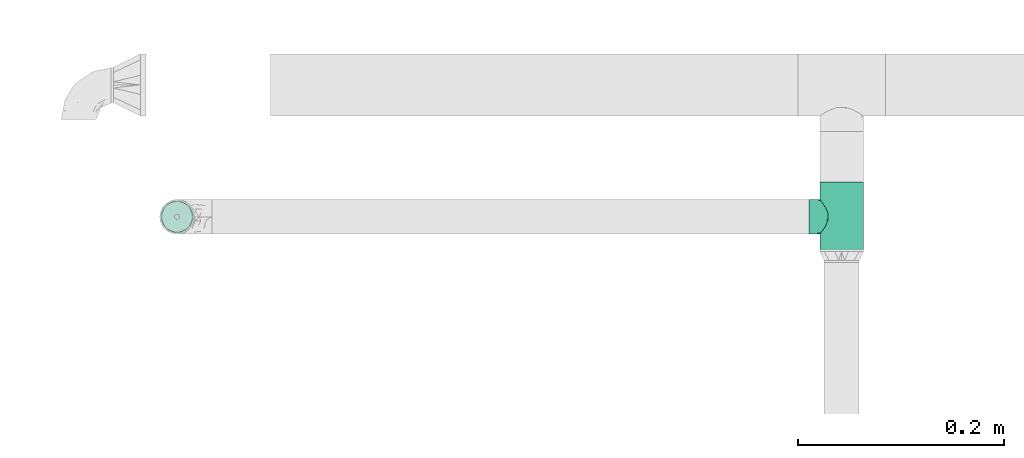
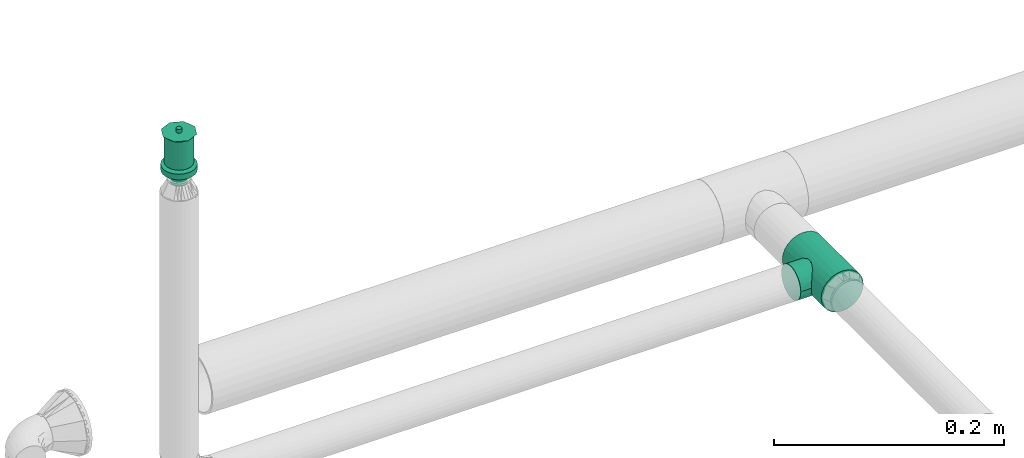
# One storey, part 69 of 157: 1 flow fitting, 1 flow terminal.
"""IFC2X3 building model written with IfcOpenShell, lengths in millimetres."""

from ifc_helpers import new_model, entity, si_unit, converted_unit, derived_unit, direction, frame, origin_with_axes, place, context, subcontext, project, spatial, open_shell, surface_model, source, transform, mapped, type_object, element, save


model = new_model("IFC2X3")

# Units and contexts
model_context = context("Model", 3, precision=0.01, world=frame((0.0, 4.29681676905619e-09, 0.0)), true_north=direction((4.01073788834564e-13, 1.0)))
plan_context = context("Plan", 3, precision=0.01, world=frame((0.0, 4.29681676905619e-09, 0.0)), true_north=direction((4.01073788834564e-13, 1.0)))
body_context = subcontext(model_context, "Body", "Model", "MODEL_VIEW")
ifc_project = project(units=[converted_unit("PLANEANGLEUNIT", "DEGREE", entity("IfcPositiveLengthMeasure", 0.0174532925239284), si_unit("PLANEANGLEUNIT", "RADIAN"), dimensions=[0, 0, 0, 0, 0, 0, 0]), si_unit("AREAUNIT", "SQUARE_METRE"), si_unit("LENGTHUNIT", "METRE", prefix="MILLI"), si_unit("MASSUNIT", "GRAM", prefix="KILO"), si_unit("POWERUNIT", "WATT"), si_unit("PRESSUREUNIT", "PASCAL"), si_unit("FORCEUNIT", "NEWTON", prefix="KILO"), si_unit("ELECTRICCURRENTUNIT", "AMPERE"), si_unit("THERMODYNAMICTEMPERATUREUNIT", "DEGREE_CELSIUS"), si_unit("TIMEUNIT", "SECOND"), si_unit("VOLUMEUNIT", "CUBIC_METRE"), derived_unit("LINEARVELOCITYUNIT", [(si_unit("LENGTHUNIT", "METRE"), 1), (si_unit("TIMEUNIT", "SECOND"), -1)]), derived_unit("VOLUMETRICFLOWRATEUNIT", [(si_unit("VOLUMEUNIT", "CUBIC_METRE"), 1), (si_unit("TIMEUNIT", "SECOND"), -1)]), derived_unit("THERMALTRANSMITTANCEUNIT", [(si_unit("POWERUNIT", "WATT"), 1), (si_unit("THERMODYNAMICTEMPERATUREUNIT", "KELVIN"), -1), (si_unit("AREAUNIT", "SQUARE_METRE"), -1)])], contexts=[model_context, plan_context])

# Site, building, storey
site_placement = place(None, frame((0.0, -4.29681676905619e-09, 0.0), z_axis=(0.0, 0.0, 1.0), x_axis=(1.0, 0.0, 0.0)))
site = spatial("IfcSite", under=ifc_project, at=site_placement, CompositionType="ELEMENT")
building_placement = place(site_placement, frame((0.0, 4.29681676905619e-09, 0.0), z_axis=(0.0, 0.0, 1.0), x_axis=(1.0, 0.0, 0.0)))
building = spatial("IfcBuilding", under=site, at=building_placement, Name="mc-building", CompositionType="ELEMENT")
storey_placement = place(building_placement, frame((0.0, 0.0, 204000.0), z_axis=(0.0, 0.0, 1.0), x_axis=(1.0, 0.0, 0.0)))
storey = spatial("IfcBuildingStorey", under=building, at=storey_placement, Name="Nivå D", CompositionType="ELEMENT", Elevation=204000.0)

# Flow fitting
pipe_fitting_type = type_object("IfcPipeFittingType", Name="magi_pipe_fe_tee_centric_90_NOR", PredefinedType="JUNCTION")
shared_shape_1 = source(origin_with_axes(), body_context, "Body", "SurfaceModel", [
    surface_model("IfcShellBasedSurfaceModel", [(-33.8, 0.0, -21.2), (-33.8, -5.48696, -20.47763), (-33.8, 5.48696, -20.47763), (-33.8, 10.6, -18.35974), (-33.8, 14.99066, -14.99066), (-33.8, -20.47763, 5.48696), (-33.8, 18.35974, -10.6), (-33.8, 10.6, 18.35974), (-33.8, -14.99066, -14.99066), (-33.8, -18.35974, -10.6), (-33.8, -10.6, -18.35974), (-33.8, -20.47763, -5.48696), (-33.8, -21.2, 0.0), (-33.8, 18.35974, 10.6), (-33.8, 20.47763, -5.48696), (-33.8, 20.47763, 5.48696), (-33.8, 21.2, 0.0), (-33.8, 14.99066, 14.99066), (-33.8, 5.48696, 20.47763), (-33.8, 0.0, 21.2), (-33.8, -18.35974, 10.6), (-33.8, -14.99066, 14.99066), (-33.8, -10.6, 18.35974), (-33.8, -5.48696, 20.47763), (33.8, 5.48696, -20.47763), (33.8, -5.48696, -20.47763), (33.8, 0.0, -21.2), (33.8, 14.99066, -14.99066), (33.8, 10.6, -18.35974), (33.8, 18.35974, -10.6), (33.8, 20.47763, -5.48696), (33.8, -21.2, 0.0), (33.8, -10.6, -18.35974), (33.8, -18.35974, -10.6), (33.8, -14.99066, -14.99066), (33.8, -20.47763, -5.48696), (33.8, -20.47763, 5.48696), (33.8, 21.2, 0.0), (33.8, 20.47763, 5.48696), (33.8, 18.35974, 10.6), (33.8, 10.6, 18.35974), (33.8, 14.99066, 14.99066), (33.8, 0.0, 21.2), (33.8, 5.48696, 20.47763), (33.8, -14.99066, 14.99066), (33.8, -18.35974, 10.6), (33.8, -10.6, 18.35974), (33.8, -5.48696, 20.47763), (16.9, -21.2, 0.0), (15.78624, -20.32327, 6.03364), (12.81343, -18.11115, 11.01935), (8.52479, -15.37862, 14.59239), (3.07939, -13.16482, 16.61708), (-16.9, -21.2, 0.0), (-15.78686, -20.32375, 6.032), (-8.52604, -15.37932, 14.59166), (-3.0848, -13.16609, 16.61608), (-12.81602, -18.11299, 11.01634), (3.07939, -13.16482, -16.61708), (12.81343, -18.11115, -11.01935), (8.52479, -15.37862, -14.59239), (15.78624, -20.32327, -6.03364), (-3.0848, -13.16609, -16.61608), (-8.52604, -15.37932, -14.59166), (-12.81602, -18.11299, -11.01634), (-15.78686, -20.32375, -6.032), (4.37404, -31.8, -16.32415), (-16.9, -31.8, 0.0), (0.0, -31.8, -16.9), (14.63583, -31.8, -8.45), (8.45, -31.8, -14.63583), (16.32415, -31.8, -4.37404), (11.9501, -31.8, -11.9501), (-11.9501, -31.8, -11.9501), (-8.45, -31.8, -14.63583), (-4.37404, -31.8, -16.32415), (-14.63583, -31.8, -8.45), (-16.32415, -31.8, -4.37404), (16.9, -31.8, 0.0), (8.45, -31.8, 14.63583), (16.32415, -31.8, 4.37404), (14.63583, -31.8, 8.45), (-8.45, -31.8, 14.63583), (11.9501, -31.8, 11.9501), (4.37404, -31.8, 16.32415), (-16.32415, -31.8, 4.37404), (-11.9501, -31.8, 11.9501), (-14.63583, -31.8, 8.45), (0.0, -31.8, 16.9), (-4.37404, -31.8, 16.32415), (-16.34343, -20.76188, 3.016), (16.34312, -20.76163, 3.01682), (-0.00271, -13.16546, 16.61658), (16.34312, -20.76163, -3.01682), (-0.00271, -13.16546, -16.61658), (-16.34343, -20.76188, -3.016)], [open_shell([[[0, 1, 2]], [[3, 2, 4]], [[5, 2, 1]], [[4, 2, 6]], [[6, 2, 7]], [[8, 9, 10]], [[1, 10, 9]], [[9, 11, 1]], [[12, 1, 11]], [[5, 1, 12]], [[13, 14, 6]], [[13, 15, 16]], [[6, 7, 13]], [[5, 7, 2]], [[17, 13, 7]], [[18, 7, 19]], [[20, 21, 5]], [[22, 5, 21]], [[23, 19, 22]], [[7, 5, 22]], [[22, 19, 7]], [[16, 14, 13]], [[24, 25, 26]], [[27, 24, 28]], [[29, 30, 24]], [[29, 24, 27]], [[31, 24, 30]], [[32, 33, 34]], [[33, 32, 25]], [[33, 31, 35]], [[31, 33, 25]], [[25, 24, 31]], [[30, 36, 31]], [[37, 38, 39]], [[37, 39, 40]], [[37, 40, 36]], [[40, 39, 41]], [[42, 40, 43]], [[36, 44, 45]], [[44, 36, 46]], [[46, 42, 47]], [[46, 36, 40]], [[40, 42, 46]], [[37, 36, 30]], [[31, 36, 48]], [[49, 48, 36]], [[36, 45, 49]], [[45, 44, 50]], [[51, 50, 44]], [[52, 51, 44]], [[44, 46, 52]], [[45, 50, 49]], [[53, 54, 5]], [[5, 12, 53]], [[54, 20, 5]], [[55, 56, 21]], [[20, 57, 21]], [[57, 20, 54]], [[21, 57, 55]], [[56, 22, 21]], [[52, 22, 56]], [[19, 47, 42]], [[23, 46, 47]], [[18, 42, 43]], [[39, 38, 15]], [[17, 40, 41]], [[13, 41, 39]], [[43, 40, 7]], [[16, 38, 37]], [[22, 46, 23]], [[23, 47, 19]], [[18, 19, 42]], [[43, 7, 18]], [[7, 40, 17]], [[13, 17, 41]], [[15, 13, 39]], [[38, 16, 15]], [[46, 22, 52]], [[6, 30, 29]], [[14, 37, 30]], [[4, 29, 27]], [[26, 25, 1]], [[2, 28, 24]], [[0, 24, 26]], [[27, 28, 3]], [[10, 25, 32]], [[16, 37, 14]], [[14, 30, 6]], [[4, 6, 29]], [[27, 3, 4]], [[3, 28, 2]], [[0, 2, 24]], [[1, 0, 26]], [[25, 10, 1]], [[32, 58, 10]], [[34, 59, 60]], [[59, 34, 33]], [[60, 58, 34]], [[34, 58, 32]], [[35, 31, 48]], [[35, 61, 33]], [[61, 35, 48]], [[33, 61, 59]], [[62, 63, 8]], [[8, 64, 9]], [[64, 8, 63]], [[62, 8, 10]], [[65, 53, 11]], [[65, 11, 9]], [[11, 53, 12]], [[65, 9, 64]], [[58, 62, 10]], [[66, 67, 68]], [[69, 66, 70]], [[69, 71, 66]], [[69, 70, 72]], [[67, 66, 71]], [[68, 73, 74]], [[74, 75, 68]], [[76, 67, 77]], [[73, 68, 76]], [[67, 76, 68]], [[71, 78, 67]], [[79, 78, 80]], [[79, 80, 81]], [[82, 67, 79]], [[79, 81, 83]], [[82, 79, 84]], [[85, 86, 87]], [[86, 85, 82]], [[82, 88, 89]], [[85, 67, 82]], [[84, 88, 82]], [[79, 67, 78]], [[85, 90, 67]], [[57, 87, 86]], [[85, 87, 54]], [[86, 82, 55]], [[85, 54, 90]], [[90, 53, 67]], [[54, 87, 57]], [[91, 49, 80]], [[55, 89, 56]], [[55, 57, 86]], [[88, 52, 92]], [[55, 82, 89]], [[52, 88, 84]], [[79, 51, 84]], [[50, 83, 81]], [[83, 51, 79]], [[81, 80, 49]], [[83, 50, 51]], [[51, 52, 84]], [[78, 91, 80]], [[49, 50, 81]], [[91, 78, 48]], [[88, 56, 89]], [[92, 56, 88]], [[71, 93, 78]], [[59, 69, 72]], [[71, 69, 61]], [[72, 70, 60]], [[93, 48, 78]], [[61, 69, 59]], [[60, 66, 58]], [[60, 59, 72]], [[68, 62, 94]], [[60, 70, 66]], [[95, 67, 53]], [[95, 65, 77]], [[71, 61, 93]], [[75, 62, 68]], [[65, 76, 77]], [[73, 76, 64]], [[68, 58, 66]], [[75, 63, 62]], [[63, 75, 74]], [[74, 73, 63]], [[63, 73, 64]], [[64, 76, 65]], [[67, 95, 77]], [[94, 58, 68]]])]),
])
flow_fitting_placement = place(storey_placement, frame((518685.97464, 413911.20018, 2690.0), z_axis=(0.0, 0.0, 1.0), x_axis=(0.0, -1.0, 0.0)))
element("IfcFlowFitting", 1, at=flow_fitting_placement, inside=storey, type_object=pipe_fitting_type, Name="magi_pipe_fe_tee_centric_90_NOR", context=body_context, shape_type="MappedRepresentation", body=[
    mapped(shared_shape_1, transform((0.0, 0.0, 0.0), scale=1.0)),
])

# Flow terminal
fire_suppression_terminal_type = type_object("IfcFireSuppressionTerminalType", Name="68DGR-STD-STÅENDE", PredefinedType="NOTDEFINED")
shared_shape_2 = source(origin_with_axes(), body_context, "Body", "SurfaceModel", [
    surface_model("IfcShellBasedSurfaceModel", [(3.36465, -12.55704, 51.0), (6.5, -11.25833, 51.0), (9.19239, -9.19239, 51.0), (12.55704, -3.36465, 51.0), (-11.25833, -6.5, 51.0), (11.25833, -6.5, 51.0), (-13.0, 0.0, 51.0), (0.0, -13.0, 51.0), (-6.5, -11.25833, 51.0), (-3.36465, -12.55704, 51.0), (-9.19239, -9.19239, 51.0), (-12.55704, -3.36465, 51.0), (13.0, 0.0, 51.0), (12.55704, 3.36465, 51.0), (11.25833, 6.5, 51.0), (9.19239, 9.19239, 51.0), (6.5, 11.25833, 51.0), (3.36465, 12.55704, 51.0), (0.0, 13.0, 51.0), (-3.36465, 12.55704, 51.0), (-12.55704, 3.36465, 51.0), (-9.19239, 9.19239, 51.0), (-11.25833, 6.5, 51.0), (-6.5, 11.25833, 51.0), (0.0, 13.0, 21.14766), (3.36465, 12.55704, 21.14766), (6.5, 11.25833, 21.14766), (-3.36465, 12.55704, 21.14766), (9.19239, 9.19239, 21.14766), (11.25833, 6.5, 21.14766), (12.55704, 3.36465, 21.14766), (-12.55704, 3.36465, 21.14766), (-11.25833, -6.5, 21.14766), (-9.19239, 9.19239, 21.14766), (-6.5, 11.25833, 21.14766), (-11.25833, 6.5, 21.14766), (-13.0, 0.0, 21.14766), (12.55704, -3.36465, 21.14766), (9.19239, -9.19239, 21.14766), (11.25833, -6.5, 21.14766), (6.5, -11.25833, 21.14766), (3.36465, -12.55704, 21.14766), (-6.5, -11.25833, 21.14766), (-9.19239, -9.19239, 21.14766), (-12.55704, -3.36465, 21.14766), (0.0, -13.0, 21.14766), (-3.36465, -12.55704, 21.14766), (13.0, 0.0, 21.14766), (7.24444, -1.94114, 0.1), (1.94114, -7.24444, 0.1), (3.75, -6.49519, 0.1), (5.3033, -5.3033, 0.1), (-5.3033, -5.3033, 0.1), (6.49519, -3.75, 0.1), (5.3033, 5.3033, 0.1), (0.0, -7.5, 0.1), (-3.75, -6.49519, 0.1), (-1.94114, -7.24444, 0.1), (-7.24444, -1.94114, 0.1), (-6.49519, -3.75, 0.1), (-7.24444, 1.94114, 0.1), (7.5, 0.0, 0.1), (6.49519, 3.75, 0.1), (-6.49519, 3.75, 0.1), (1.94114, 7.24444, 0.1), (0.0, 7.5, 0.1), (3.75, 6.49519, 0.1), (-7.5, 0.0, 0.1), (-5.3033, 5.3033, 0.1), (-1.94114, 7.24444, 0.1), (-3.75, 6.49519, 0.1), (7.24444, 1.94114, 0.1), (1.94114, 7.24444, -0.1), (-6.49519, 3.75, -0.1), (0.0, 7.5, -0.1), (5.3033, 5.3033, -0.1), (3.75, 6.49519, -0.1), (6.49519, 3.75, -0.1), (7.24444, 1.94114, -0.1), (-1.94114, 7.24444, -0.1), (-5.3033, 5.3033, -0.1), (-3.75, 6.49519, -0.1), (-7.24444, 1.94114, -0.1), (-7.24444, -1.94114, -0.1), (-7.5, 0.0, -0.1), (7.5, 0.0, -0.1), (7.24444, -1.94114, -0.1), (-5.3033, -5.3033, -0.1), (1.94114, -7.24444, -0.1), (6.49519, -3.75, -0.1), (5.3033, -5.3033, -0.1), (3.75, -6.49519, -0.1), (-6.49519, -3.75, -0.1), (-3.75, -6.49519, -0.1), (0.0, -7.5, -0.1), (-1.94114, -7.24444, -0.1), (0.0, -2.5, 51.0), (-2.5, 0.0, 51.0), (0.0, 2.5, 51.0), (2.5, 0.0, 51.0), (0.0, -16.0, 53.0), (11.31371, -11.31371, 53.0), (-11.31371, -11.31371, 53.0), (-16.0, 0.0, 53.0), (16.0, 0.0, 53.0), (11.31371, 11.31371, 53.0), (0.0, 16.0, 53.0), (-11.31371, 11.31371, 53.0), (1.25, -2.16506, 57.0), (0.0, -2.5, 57.0), (0.64705, -2.41481, 57.0), (2.41481, -0.64705, 57.0), (1.76777, -1.76777, 57.0), (-2.41481, -0.64705, 57.0), (-2.5, 0.0, 57.0), (2.16506, -1.25, 57.0), (-1.25, -2.16506, 57.0), (-0.64705, -2.41481, 57.0), (-1.76777, -1.76777, 57.0), (-2.16506, -1.25, 57.0), (2.5, 0.0, 57.0), (2.41481, 0.64705, 57.0), (2.16506, 1.25, 57.0), (1.76777, 1.76777, 57.0), (0.64705, 2.41481, 57.0), (1.25, 2.16506, 57.0), (-1.76777, 1.76777, 57.0), (0.0, 2.5, 57.0), (-2.16506, 1.25, 57.0), (-2.41481, 0.64705, 57.0), (-0.64705, 2.41481, 57.0), (-1.25, 2.16506, 57.0), (1.25, 2.16506, 51.0), (1.76777, 1.76777, 51.0), (1.15, 1.99186, 51.0), (0.59528, 2.22163, 51.0), (0.64705, 2.41481, 51.0), (0.0, 2.3, 51.0), (1.62635, 1.62635, 51.0), (2.41481, 0.64705, 51.0), (2.3, 0.0, 51.0), (2.22163, 0.59528, 51.0), (2.16506, 1.25, 51.0), (1.99186, 1.15, 51.0), (-0.59528, 2.22163, 51.0), (-0.64705, 2.41481, 51.0), (-1.15, 1.99186, 51.0), (-1.76777, 1.76777, 51.0), (-1.25, 2.16506, 51.0), (-1.62635, 1.62635, 51.0), (-1.99186, 1.15, 51.0), (-2.16506, 1.25, 51.0), (-2.22163, 0.59528, 51.0), (-2.41481, 0.64705, 51.0), (-2.3, 0.0, 51.0), (2.41481, -0.64705, 51.0), (2.22163, -0.59528, 51.0), (1.99186, -1.15, 51.0), (2.16506, -1.25, 51.0), (1.62635, -1.62635, 51.0), (1.76777, -1.76777, 51.0), (1.25, -2.16506, 51.0), (1.15, -1.99186, 51.0), (0.59528, -2.22163, 51.0), (0.64705, -2.41481, 51.0), (0.0, -2.3, 51.0), (-2.16506, -1.25, 51.0), (-1.99186, -1.15, 51.0), (-1.76777, -1.76777, 51.0), (-1.62635, -1.62635, 51.0), (-2.41481, -0.64705, 51.0), (-2.22163, -0.59528, 51.0), (-0.59528, -2.22163, 51.0), (-0.64705, -2.41481, 51.0), (-1.15, -1.99186, 51.0), (-1.25, -2.16506, 51.0), (1.62635, -1.62635, 56.8), (1.15, -1.99186, 56.8), (0.59528, -2.22163, 56.8), (0.0, -2.3, 56.8), (2.22163, 0.59528, 56.8), (1.99186, -1.15, 56.8), (2.22163, -0.59528, 56.8), (-0.59528, -2.22163, 56.8), (-1.15, -1.99186, 56.8), (-1.62635, -1.62635, 56.8), (-1.99186, -1.15, 56.8), (-2.22163, -0.59528, 56.8), (-1.99186, 1.15, 56.8), (2.3, 0.0, 56.8), (1.62635, 1.62635, 56.8), (1.99186, 1.15, 56.8), (1.15, 1.99186, 56.8), (0.0, 2.3, 56.8), (0.59528, 2.22163, 56.8), (-2.22163, 0.59528, 56.8), (-2.3, 0.0, 56.8), (-1.15, 1.99186, 56.8), (-0.59528, 2.22163, 56.8), (-1.62635, 1.62635, 56.8), (4.1411, -15.45481, 19.0), (8.0, -13.85641, 19.0), (11.31371, -11.31371, 19.0), (-8.0, -13.85641, 19.0), (15.45481, -4.1411, 19.0), (16.0, 0.0, 19.0), (13.85641, -8.0, 19.0), (0.0, -16.0, 19.0), (-4.1411, -15.45481, 19.0), (-13.85641, -8.0, 19.0), (-11.31371, -11.31371, 19.0), (-15.45481, -4.1411, 19.0), (15.45481, 4.1411, 19.0), (13.85641, 8.0, 19.0), (11.31371, 11.31371, 19.0), (-4.1411, 15.45481, 19.0), (8.0, 13.85641, 19.0), (4.1411, 15.45481, 19.0), (0.0, 16.0, 19.0), (-13.85641, 8.0, 19.0), (-15.45481, 4.1411, 19.0), (-16.0, 0.0, 19.0), (-11.31371, 11.31371, 19.0), (-8.0, 13.85641, 19.0), (0.0, 16.0, 13.0), (4.1411, 15.45481, 13.0), (8.0, 13.85641, 13.0), (-4.1411, 15.45481, 13.0), (11.31371, 11.31371, 13.0), (13.85641, 8.0, 13.0), (15.45481, 4.1411, 13.0), (-15.45481, -4.1411, 13.0), (-11.31371, 11.31371, 13.0), (-8.0, 13.85641, 13.0), (-13.85641, 8.0, 13.0), (-15.45481, 4.1411, 13.0), (-16.0, 0.0, 13.0), (4.1411, -15.45481, 13.0), (16.0, 0.0, 13.0), (15.45481, -4.1411, 13.0), (13.85641, -8.0, 13.0), (11.31371, -11.31371, 13.0), (8.0, -13.85641, 13.0), (-8.0, -13.85641, 13.0), (-13.85641, -8.0, 13.0), (-11.31371, -11.31371, 13.0), (0.0, -16.0, 13.0), (-4.1411, -15.45481, 13.0), (7.24444, -1.94114, 13.0), (1.94114, -7.24444, 13.0), (3.75, -6.49519, 13.0), (5.3033, -5.3033, 13.0), (-5.3033, -5.3033, 13.0), (6.49519, -3.75, 13.0), (5.3033, 5.3033, 13.0), (0.0, -7.5, 13.0), (-3.75, -6.49519, 13.0), (-1.94114, -7.24444, 13.0), (-7.24444, -1.94114, 13.0), (-6.49519, -3.75, 13.0), (-7.24444, 1.94114, 13.0), (7.5, 0.0, 13.0), (6.49519, 3.75, 13.0), (-6.49519, 3.75, 13.0), (1.94114, 7.24444, 13.0), (0.0, 7.5, 13.0), (3.75, 6.49519, 13.0), (-7.5, 0.0, 13.0), (-5.3033, 5.3033, 13.0), (-1.94114, 7.24444, 13.0), (-3.75, 6.49519, 13.0), (7.24444, 1.94114, 13.0), (3.75, 6.49519, 0.0), (5.3033, 5.3033, 0.0), (3.65, 6.32199, 0.0), (1.88938, 7.05126, 0.0), (0.0, 7.3, 0.0), (1.94114, 7.24444, 0.0), (0.0, 7.5, 0.0), (5.16188, 5.16188, 0.0), (7.24444, 1.94114, 0.0), (7.3, 0.0, 0.0), (7.05126, 1.88938, 0.0), (7.5, 0.0, 0.0), (6.49519, 3.75, 0.0), (6.32199, 3.65, 0.0), (-1.88938, 7.05126, 0.0), (-1.94114, 7.24444, 0.0), (-3.65, 6.32199, 0.0), (-5.3033, 5.3033, 0.0), (-3.75, 6.49519, 0.0), (-5.16188, 5.16188, 0.0), (-6.32199, 3.65, 0.0), (-6.49519, 3.75, 0.0), (-7.05126, 1.88938, 0.0), (-7.24444, 1.94114, 0.0), (-7.3, 0.0, 0.0), (-7.5, 0.0, 0.0), (7.24444, -1.94114, 0.0), (7.05126, -1.88938, 0.0), (6.32199, -3.65, 0.0), (6.49519, -3.75, 0.0), (5.16188, -5.16188, 0.0), (5.3033, -5.3033, 0.0), (3.75, -6.49519, 0.0), (3.65, -6.32199, 0.0), (1.88938, -7.05126, 0.0), (1.94114, -7.24444, 0.0), (0.0, -7.3, 0.0), (0.0, -7.5, 0.0), (-6.49519, -3.75, 0.0), (-6.32199, -3.65, 0.0), (-5.3033, -5.3033, 0.0), (-5.16188, -5.16188, 0.0), (-7.24444, -1.94114, 0.0), (-7.05126, -1.88938, 0.0), (-1.88938, -7.05126, 0.0), (-1.94114, -7.24444, 0.0), (-3.65, -6.32199, 0.0), (-3.75, -6.49519, 0.0), (1.88938, -7.05126, 12.8), (0.0, -7.3, 12.8), (3.65, -6.32199, 12.8), (5.16188, -5.16188, 12.8), (6.32199, -3.65, 12.8), (7.05126, 1.88938, 12.8), (7.05126, -1.88938, 12.8), (-5.16188, -5.16188, 12.8), (-1.88938, -7.05126, 12.8), (-3.65, -6.32199, 12.8), (-6.32199, -3.65, 12.8), (-7.05126, -1.88938, 12.8), (0.0, 7.3, 12.8), (7.3, 0.0, 12.8), (6.32199, 3.65, 12.8), (5.16188, 5.16188, 12.8), (3.65, 6.32199, 12.8), (1.88938, 7.05126, 12.8), (-6.32199, 3.65, 12.8), (-7.05126, 1.88938, 12.8), (-7.3, 0.0, 12.8), (-3.65, 6.32199, 12.8), (-1.88938, 7.05126, 12.8), (-5.16188, 5.16188, 12.8)], [open_shell([[[0, 1, 2]], [[0, 2, 3]], [[0, 3, 4]], [[3, 2, 5]], [[6, 4, 3]], [[7, 8, 9]], [[7, 0, 8]], [[8, 4, 10]], [[0, 4, 8]], [[4, 6, 11]], [[6, 3, 12]], [[13, 14, 15]], [[6, 13, 15]], [[16, 17, 18]], [[15, 16, 19]], [[18, 19, 16]], [[20, 21, 22]], [[20, 6, 15]], [[21, 19, 23]], [[19, 21, 20]], [[15, 19, 20]], [[13, 6, 12]], [[24, 25, 26]], [[27, 24, 26]], [[28, 29, 30]], [[26, 28, 31]], [[28, 32, 31]], [[27, 33, 34]], [[33, 27, 31]], [[33, 31, 35]], [[27, 26, 31]], [[31, 32, 36]], [[32, 28, 30]], [[32, 30, 37]], [[38, 37, 39]], [[38, 40, 41]], [[38, 41, 37]], [[32, 37, 41]], [[32, 42, 43]], [[44, 36, 32]], [[42, 45, 46]], [[42, 32, 41]], [[45, 42, 41]], [[30, 47, 37]], [[4, 32, 43]], [[8, 42, 46]], [[43, 42, 10]], [[9, 46, 45]], [[36, 11, 6]], [[11, 36, 44]], [[11, 44, 4]], [[44, 32, 4]], [[43, 10, 4]], [[8, 10, 42]], [[46, 9, 8]], [[45, 7, 9]], [[0, 41, 40]], [[38, 1, 40]], [[5, 39, 37]], [[38, 39, 2]], [[3, 37, 47]], [[41, 0, 7]], [[40, 1, 0]], [[38, 2, 1]], [[39, 5, 2]], [[3, 5, 37]], [[47, 12, 3]], [[41, 7, 45]], [[30, 13, 47]], [[29, 14, 30]], [[25, 24, 17]], [[15, 29, 28]], [[30, 14, 13]], [[13, 12, 47]], [[16, 26, 17]], [[16, 15, 28]], [[26, 25, 17]], [[15, 14, 29]], [[28, 26, 16]], [[24, 18, 17]], [[19, 27, 34]], [[33, 23, 34]], [[22, 35, 31]], [[33, 35, 21]], [[20, 31, 36]], [[27, 19, 18]], [[34, 23, 19]], [[33, 21, 23]], [[35, 22, 21]], [[20, 22, 31]], [[36, 6, 20]], [[27, 18, 24]], [[48, 49, 50]], [[48, 50, 51]], [[49, 48, 52]], [[48, 51, 53]], [[54, 52, 48]], [[55, 56, 57]], [[56, 55, 52]], [[52, 58, 59]], [[52, 55, 49]], [[52, 60, 58]], [[54, 48, 61]], [[62, 54, 61]], [[54, 63, 52]], [[64, 65, 54]], [[64, 54, 66]], [[63, 54, 65]], [[63, 60, 52]], [[67, 58, 60]], [[68, 69, 70]], [[69, 68, 63]], [[69, 63, 65]], [[71, 62, 61]], [[72, 73, 74]], [[75, 72, 76]], [[75, 77, 78]], [[72, 75, 73]], [[78, 73, 75]], [[79, 80, 81]], [[80, 79, 73]], [[74, 73, 79]], [[78, 82, 73]], [[82, 83, 84]], [[82, 78, 85]], [[86, 87, 85]], [[88, 86, 89]], [[90, 91, 88]], [[90, 88, 89]], [[87, 86, 88]], [[83, 87, 92]], [[83, 85, 87]], [[93, 94, 95]], [[94, 93, 87]], [[88, 94, 87]], [[85, 83, 82]], [[83, 58, 84]], [[92, 59, 83]], [[56, 87, 93]], [[92, 87, 52]], [[57, 93, 95]], [[83, 59, 58]], [[58, 67, 84]], [[57, 56, 93]], [[52, 87, 56]], [[52, 59, 92]], [[55, 57, 95]], [[95, 94, 55]], [[88, 49, 94]], [[91, 50, 88]], [[53, 90, 89]], [[91, 90, 51]], [[48, 89, 86]], [[91, 51, 50]], [[50, 49, 88]], [[61, 48, 86]], [[53, 89, 48]], [[53, 51, 90]], [[85, 61, 86]], [[94, 49, 55]], [[78, 71, 85]], [[77, 62, 78]], [[66, 75, 76]], [[77, 75, 54]], [[64, 76, 72]], [[78, 62, 71]], [[71, 61, 85]], [[64, 66, 76]], [[54, 75, 66]], [[54, 62, 77]], [[65, 64, 72]], [[72, 74, 65]], [[79, 69, 74]], [[81, 70, 79]], [[63, 80, 73]], [[81, 80, 68]], [[60, 73, 82]], [[81, 68, 70]], [[70, 69, 79]], [[67, 60, 82]], [[63, 73, 60]], [[63, 68, 80]], [[84, 67, 82]], [[74, 69, 65]], [[96, 97, 98]], [[98, 99, 96]], [[100, 101, 102]], [[103, 102, 101]], [[101, 104, 103]], [[104, 105, 106]], [[107, 103, 106]], [[106, 103, 104]], [[99, 98, 105]], [[105, 104, 99]], [[98, 106, 105]], [[98, 107, 106]], [[107, 98, 97]], [[103, 107, 97]], [[97, 96, 102]], [[102, 103, 97]], [[96, 100, 102]], [[96, 101, 100]], [[101, 96, 99]], [[104, 101, 99]], [[108, 109, 110]], [[111, 108, 112]], [[113, 108, 114]], [[111, 112, 115]], [[108, 111, 114]], [[109, 116, 117]], [[116, 109, 118]], [[118, 113, 119]], [[118, 109, 108]], [[108, 113, 118]], [[111, 120, 114]], [[121, 122, 123]], [[114, 121, 123]], [[114, 123, 124]], [[124, 123, 125]], [[126, 124, 127]], [[124, 128, 129]], [[129, 114, 124]], [[126, 130, 131]], [[128, 124, 126]], [[130, 126, 127]], [[121, 114, 120]], [[132, 133, 134]], [[132, 134, 135]], [[136, 135, 137]], [[135, 136, 132]], [[136, 137, 98]], [[134, 133, 138]], [[139, 140, 141]], [[140, 139, 99]], [[139, 141, 142]], [[138, 142, 143]], [[142, 138, 133]], [[143, 142, 141]], [[98, 144, 145]], [[98, 137, 144]], [[145, 144, 146]], [[147, 148, 149]], [[146, 148, 145]], [[149, 148, 146]], [[150, 151, 147]], [[151, 150, 152]], [[150, 147, 149]], [[153, 152, 154]], [[152, 153, 151]], [[153, 154, 97]], [[99, 155, 156]], [[156, 155, 157]], [[157, 158, 159]], [[158, 157, 155]], [[159, 158, 160]], [[160, 161, 162]], [[162, 161, 163]], [[163, 164, 165]], [[164, 163, 161]], [[165, 164, 96]], [[162, 159, 160]], [[166, 167, 168]], [[168, 167, 169]], [[167, 166, 170]], [[97, 171, 170]], [[170, 171, 167]], [[97, 154, 171]], [[172, 96, 173]], [[172, 173, 174]], [[169, 175, 168]], [[175, 169, 174]], [[175, 174, 173]], [[165, 96, 172]], [[156, 140, 99]], [[170, 113, 97]], [[166, 119, 170]], [[116, 168, 175]], [[166, 168, 118]], [[117, 175, 173]], [[170, 119, 113]], [[113, 114, 97]], [[117, 116, 175]], [[118, 168, 116]], [[118, 119, 166]], [[109, 117, 173]], [[173, 96, 109]], [[164, 110, 96]], [[161, 108, 164]], [[115, 160, 158]], [[161, 160, 112]], [[111, 158, 155]], [[161, 112, 108]], [[108, 110, 164]], [[120, 111, 155]], [[115, 158, 111]], [[115, 112, 160]], [[99, 120, 155]], [[96, 110, 109]], [[139, 121, 99]], [[142, 122, 139]], [[125, 133, 132]], [[142, 133, 123]], [[124, 132, 136]], [[139, 122, 121]], [[121, 120, 99]], [[124, 125, 132]], [[123, 133, 125]], [[123, 122, 142]], [[127, 124, 136]], [[136, 98, 127]], [[145, 130, 98]], [[148, 131, 145]], [[128, 147, 151]], [[148, 147, 126]], [[129, 151, 153]], [[148, 126, 131]], [[131, 130, 145]], [[114, 129, 153]], [[128, 151, 129]], [[128, 126, 147]], [[97, 114, 153]], [[98, 130, 127]], [[176, 177, 178]], [[176, 178, 179]], [[180, 176, 179]], [[181, 176, 182]], [[180, 182, 176]], [[183, 184, 179]], [[185, 179, 184]], [[186, 187, 185]], [[185, 187, 188]], [[179, 185, 188]], [[189, 182, 180]], [[190, 191, 180]], [[192, 190, 180]], [[193, 194, 192]], [[180, 193, 192]], [[188, 193, 180]], [[195, 188, 196]], [[196, 188, 187]], [[197, 198, 199]], [[188, 199, 198]], [[188, 198, 193]], [[180, 179, 188]], [[154, 187, 171]], [[171, 186, 167]], [[174, 169, 184]], [[185, 169, 167]], [[172, 174, 183]], [[187, 186, 171]], [[154, 196, 187]], [[174, 184, 183]], [[184, 169, 185]], [[167, 186, 185]], [[172, 183, 179]], [[179, 165, 172]], [[165, 178, 163]], [[163, 177, 162]], [[157, 159, 181]], [[176, 159, 162]], [[156, 157, 182]], [[177, 176, 162]], [[163, 178, 177]], [[156, 182, 189]], [[182, 157, 181]], [[159, 176, 181]], [[156, 189, 140]], [[179, 178, 165]], [[140, 180, 141]], [[141, 191, 143]], [[134, 138, 192]], [[190, 138, 143]], [[135, 134, 194]], [[180, 191, 141]], [[140, 189, 180]], [[134, 192, 194]], [[192, 138, 190]], [[143, 191, 190]], [[135, 194, 193]], [[193, 137, 135]], [[137, 198, 144]], [[144, 197, 146]], [[150, 149, 188]], [[199, 149, 146]], [[152, 150, 195]], [[197, 199, 146]], [[144, 198, 197]], [[152, 195, 196]], [[195, 150, 188]], [[149, 199, 188]], [[152, 196, 154]], [[193, 198, 137]], [[200, 201, 202]], [[203, 200, 202]], [[204, 205, 202]], [[204, 202, 206]], [[203, 202, 205]], [[207, 203, 208]], [[207, 200, 203]], [[203, 209, 210]], [[209, 203, 211]], [[205, 211, 203]], [[205, 212, 211]], [[212, 213, 214]], [[215, 212, 214]], [[216, 217, 218]], [[214, 216, 215]], [[218, 215, 216]], [[211, 219, 220]], [[221, 211, 220]], [[222, 215, 223]], [[215, 222, 219]], [[219, 211, 215]], [[211, 212, 215]], [[224, 225, 226]], [[227, 224, 226]], [[228, 229, 230]], [[227, 226, 228]], [[227, 228, 231]], [[227, 232, 233]], [[232, 227, 234]], [[234, 231, 235]], [[231, 234, 227]], [[235, 231, 236]], [[228, 230, 231]], [[237, 238, 239]], [[237, 239, 240]], [[241, 242, 237]], [[241, 237, 240]], [[238, 237, 243]], [[244, 243, 245]], [[243, 244, 231]], [[243, 246, 247]], [[243, 231, 238]], [[237, 246, 243]], [[238, 231, 230]], [[231, 211, 236]], [[244, 209, 231]], [[203, 245, 243]], [[244, 245, 210]], [[208, 243, 247]], [[231, 209, 211]], [[211, 221, 236]], [[208, 203, 243]], [[210, 245, 203]], [[210, 209, 244]], [[207, 208, 247]], [[247, 246, 207]], [[237, 200, 246]], [[242, 201, 237]], [[206, 241, 240]], [[242, 241, 202]], [[204, 240, 239]], [[242, 202, 201]], [[201, 200, 237]], [[205, 204, 239]], [[206, 240, 204]], [[206, 202, 241]], [[238, 205, 239]], [[246, 200, 207]], [[230, 212, 238]], [[229, 213, 230]], [[216, 228, 226]], [[229, 228, 214]], [[217, 226, 225]], [[230, 213, 212]], [[212, 205, 238]], [[217, 216, 226]], [[214, 228, 216]], [[214, 213, 229]], [[218, 217, 225]], [[225, 224, 218]], [[227, 215, 224]], [[233, 223, 227]], [[219, 232, 234]], [[233, 232, 222]], [[220, 234, 235]], [[233, 222, 223]], [[223, 215, 227]], [[221, 220, 235]], [[219, 234, 220]], [[219, 222, 232]], [[236, 221, 235]], [[224, 215, 218]], [[248, 249, 250]], [[248, 250, 251]], [[249, 248, 252]], [[248, 251, 253]], [[254, 252, 248]], [[255, 256, 257]], [[256, 255, 252]], [[252, 258, 259]], [[252, 255, 249]], [[252, 260, 258]], [[254, 248, 261]], [[262, 254, 261]], [[254, 263, 252]], [[264, 265, 254]], [[264, 254, 266]], [[263, 254, 265]], [[263, 260, 252]], [[267, 258, 260]], [[268, 269, 270]], [[269, 268, 263]], [[269, 263, 265]], [[271, 262, 261]], [[272, 273, 274]], [[272, 274, 275]], [[276, 277, 275]], [[277, 276, 278]], [[275, 277, 272]], [[274, 273, 279]], [[280, 281, 282]], [[281, 280, 283]], [[280, 282, 284]], [[279, 284, 285]], [[284, 279, 273]], [[285, 284, 282]], [[278, 286, 287]], [[287, 286, 288]], [[289, 290, 291]], [[288, 290, 287]], [[288, 291, 290]], [[278, 276, 286]], [[292, 293, 289]], [[293, 292, 294]], [[292, 289, 291]], [[295, 294, 296]], [[294, 295, 293]], [[295, 296, 297]], [[283, 298, 299]], [[299, 298, 300]], [[300, 301, 302]], [[301, 300, 298]], [[302, 301, 303]], [[303, 304, 305]], [[305, 304, 306]], [[306, 307, 308]], [[307, 306, 304]], [[308, 307, 309]], [[305, 302, 303]], [[310, 311, 312]], [[312, 311, 313]], [[311, 310, 314]], [[297, 315, 314]], [[314, 315, 311]], [[297, 296, 315]], [[316, 309, 317]], [[316, 317, 318]], [[313, 319, 312]], [[313, 318, 319]], [[319, 318, 317]], [[308, 309, 316]], [[299, 281, 283]], [[314, 258, 297]], [[310, 259, 314]], [[256, 312, 319]], [[310, 312, 252]], [[257, 319, 317]], [[314, 259, 258]], [[258, 267, 297]], [[257, 256, 319]], [[252, 312, 256]], [[252, 259, 310]], [[255, 257, 317]], [[317, 309, 255]], [[307, 249, 309]], [[304, 250, 307]], [[253, 303, 301]], [[304, 303, 251]], [[248, 301, 298]], [[304, 251, 250]], [[250, 249, 307]], [[261, 248, 298]], [[253, 301, 248]], [[253, 251, 303]], [[283, 261, 298]], [[309, 249, 255]], [[280, 271, 283]], [[284, 262, 280]], [[266, 273, 272]], [[284, 273, 254]], [[264, 272, 277]], [[280, 262, 271]], [[271, 261, 283]], [[264, 266, 272]], [[254, 273, 266]], [[254, 262, 284]], [[265, 264, 277]], [[277, 278, 265]], [[287, 269, 278]], [[290, 270, 287]], [[263, 289, 293]], [[290, 289, 268]], [[260, 293, 295]], [[290, 268, 270]], [[270, 269, 287]], [[267, 260, 295]], [[263, 293, 260]], [[263, 268, 289]], [[297, 267, 295]], [[278, 269, 265]], [[320, 321, 322]], [[323, 322, 324]], [[325, 326, 322]], [[324, 322, 326]], [[322, 327, 325]], [[328, 329, 321]], [[327, 321, 329]], [[330, 331, 327]], [[322, 321, 327]], [[331, 332, 327]], [[326, 325, 333]], [[334, 325, 332]], [[335, 334, 336]], [[332, 337, 336]], [[334, 332, 336]], [[331, 338, 332]], [[339, 338, 340]], [[340, 338, 331]], [[341, 342, 343]], [[332, 338, 343]], [[332, 343, 342]], [[332, 325, 327]], [[296, 331, 315]], [[315, 330, 311]], [[318, 313, 329]], [[327, 313, 311]], [[316, 318, 328]], [[331, 330, 315]], [[296, 340, 331]], [[318, 329, 328]], [[329, 313, 327]], [[311, 330, 327]], [[316, 328, 321]], [[321, 308, 316]], [[308, 320, 306]], [[306, 322, 305]], [[300, 302, 324]], [[323, 302, 305]], [[299, 300, 326]], [[322, 323, 305]], [[306, 320, 322]], [[299, 326, 333]], [[326, 300, 324]], [[302, 323, 324]], [[299, 333, 281]], [[321, 320, 308]], [[281, 325, 282]], [[282, 334, 285]], [[274, 279, 336]], [[335, 279, 285]], [[275, 274, 337]], [[325, 334, 282]], [[281, 333, 325]], [[274, 336, 337]], [[336, 279, 335]], [[285, 334, 335]], [[275, 337, 332]], [[332, 276, 275]], [[276, 342, 286]], [[286, 341, 288]], [[292, 291, 338]], [[343, 291, 288]], [[294, 292, 339]], [[341, 343, 288]], [[286, 342, 341]], [[294, 339, 340]], [[339, 292, 338]], [[291, 343, 338]], [[294, 340, 296]], [[332, 342, 276]]])]),
])
flow_terminal_placement = place(storey_placement, frame((518040.35, 413911.20018, 3011.5), z_axis=(0.0, 0.0, 1.0), x_axis=(1.0, 0.0, 0.0)))
element("IfcFlowTerminal", 2, at=flow_terminal_placement, inside=storey, type_object=fire_suppression_terminal_type, Name="68DGR-STD-STÅENDE", context=body_context, shape_type="MappedRepresentation", body=[
    mapped(shared_shape_2, transform((0.0, 0.0, 0.0), scale=1.0)),
])

save(model, "model.ifc")
